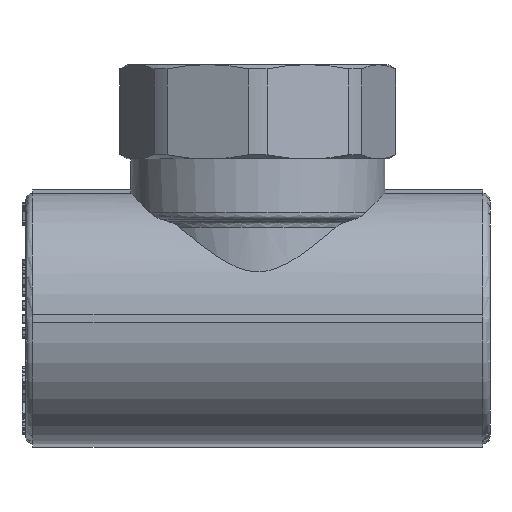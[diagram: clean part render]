
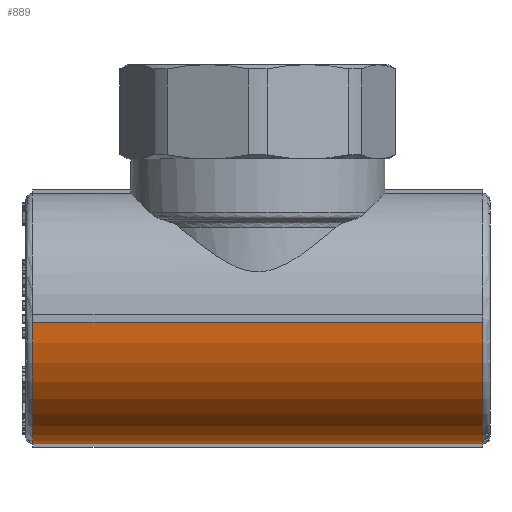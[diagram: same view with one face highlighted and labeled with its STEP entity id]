
A CAD part, left-side view. The second image highlights one B-rep face of the part: STEP entity #889.
In plain terms, the highlighted cylindrical face has radius 17.25 mm (diameter 34.5 mm), a partial arc.
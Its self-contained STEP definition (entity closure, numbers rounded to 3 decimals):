
#889=ADVANCED_FACE('',(#5449),#5451,.T.);
#5449=FACE_BOUND('',#5450,.T.);
#5450=EDGE_LOOP('',(#11785,#11786,#11787,#11788));
#5451=CYLINDRICAL_SURFACE('',#5452,17.25);
#5452=AXIS2_PLACEMENT_3D('',#5453,#5454,#5455);
#5453=CARTESIAN_POINT('',(0.,-32.,0.));
#5454=DIRECTION('',(0.,1.,0.));
#5455=DIRECTION('',(-1.,0.,0.));
#11785=ORIENTED_EDGE('',*,*,#15444,.F.);
#11786=ORIENTED_EDGE('',*,*,#14400,.T.);
#11787=ORIENTED_EDGE('',*,*,#15445,.F.);
#11788=ORIENTED_EDGE('',*,*,#14410,.F.);
#14400=EDGE_CURVE('',#17590,#17588,#17591,.T.);
#14410=EDGE_CURVE('',#17606,#17608,#17609,.T.);
#15444=EDGE_CURVE('',#17590,#17606,#19165,.T.);
#15445=EDGE_CURVE('',#17608,#17588,#19166,.F.);
#17588=VERTEX_POINT('',#25696);
#17590=VERTEX_POINT('',#25701);
#17591=CIRCLE('',#25702,17.25);
#17606=VERTEX_POINT('',#25741);
#17608=VERTEX_POINT('',#25746);
#17609=CIRCLE('',#25747,17.25);
#19165=LINE('',#30007,#30008);
#19166=LINE('',#30010,#30011);
#25696=CARTESIAN_POINT('',(-17.243,-31.,-0.5));
#25701=CARTESIAN_POINT('',(-0.5,-31.,-17.243));
#25702=AXIS2_PLACEMENT_3D('',#25703,#25704,#25705);
#25703=CARTESIAN_POINT('',(0.,-31.,0.));
#25704=DIRECTION('',(0.,1.,0.));
#25705=DIRECTION('',(-0.029,0.,-1.));
#25741=CARTESIAN_POINT('',(-0.5,31.,-17.243));
#25746=CARTESIAN_POINT('',(-17.243,31.,-0.5));
#25747=AXIS2_PLACEMENT_3D('',#25748,#25749,#25750);
#25748=CARTESIAN_POINT('',(0.,31.,0.));
#25749=DIRECTION('',(0.,1.,0.));
#25750=DIRECTION('',(-0.029,0.,-1.));
#30007=CARTESIAN_POINT('',(-0.5,-31.,-17.243));
#30008=VECTOR('',#30009,1.);
#30009=DIRECTION('',(0.,1.,0.));
#30010=CARTESIAN_POINT('',(-17.243,-31.,-0.5));
#30011=VECTOR('',#30012,1.);
#30012=DIRECTION('',(0.,1.,0.));
